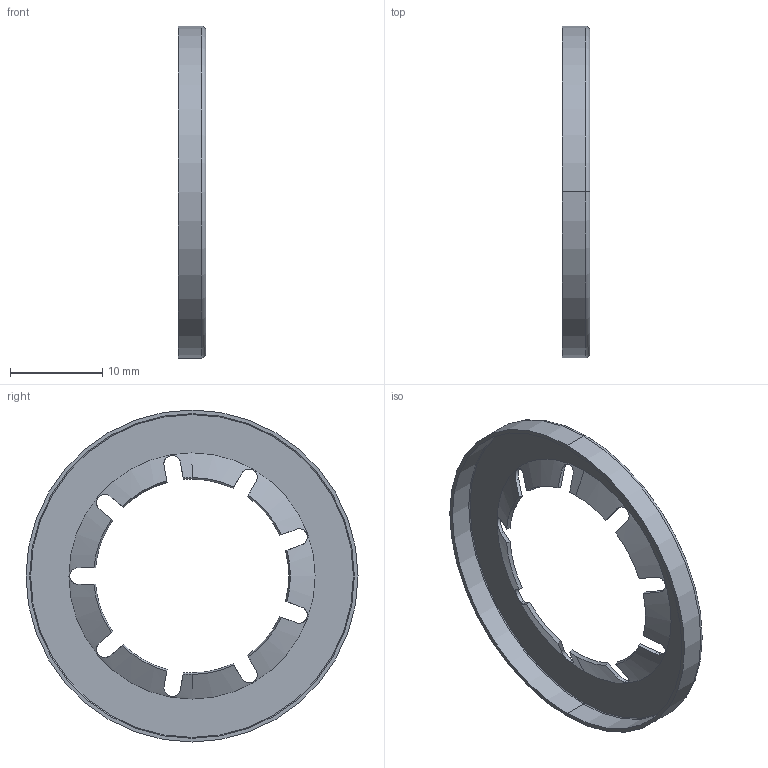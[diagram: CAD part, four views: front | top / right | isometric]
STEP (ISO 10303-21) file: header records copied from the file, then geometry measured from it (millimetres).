
FILE_DESCRIPTION (( 'STEP AP214' ), '1' );
FILE_NAME ('509.3-36-B.step', '2023-07-06T13:23:40', ( '' ), ( '' ), 'SwSTEP 2.0', 'SolidWorks 2022', '' );
FILE_SCHEMA (( 'AUTOMOTIVE_DESIGN' ));
Length unit declared in the file: millimetre
Products named in the file (1): 509.3-36-B
Bounding box: 3 x 36 x 36 mm (x, y, z)
Volume: 367.7 mm3; surface area: 1929.2 mm2
Topology: 1 solids, 1 shells, 64 faces, 169 edges, 108 vertices
Faces by surface type: cone 22, plane 21, cylinder 17, torus 4
Entity records: 2280 total; most frequent: CARTESIAN_POINT 791, ORIENTED_EDGE 338, DIRECTION 260, EDGE_CURVE 169, AXIS2_PLACEMENT_3D 115, VERTEX_POINT 108, B_SPLINE_CURVE_WITH_KNOTS 89, EDGE_LOOP 67
